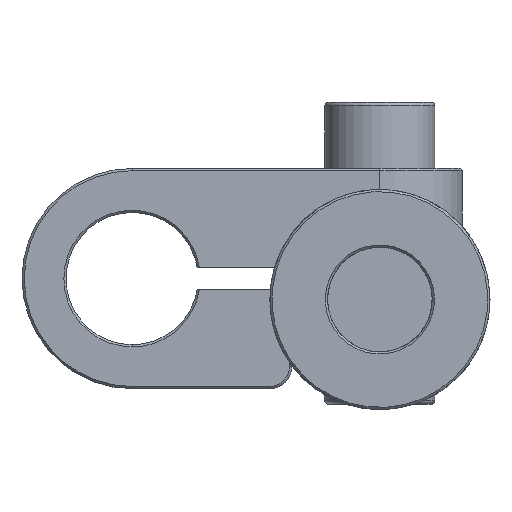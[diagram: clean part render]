
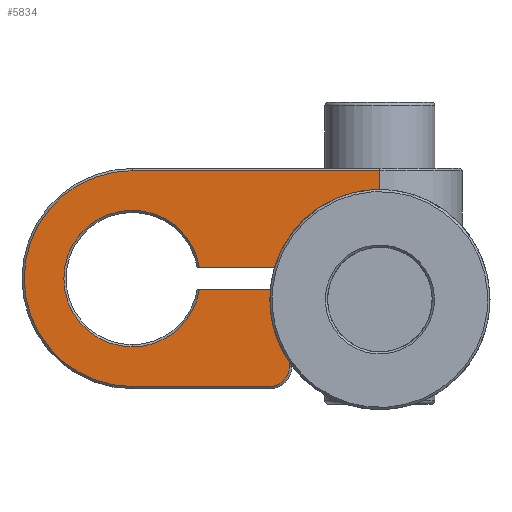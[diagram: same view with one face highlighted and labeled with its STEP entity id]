
A CAD part, front view. The second image highlights one B-rep face of the part: STEP entity #5834.
In plain terms, the highlighted planar face has unit normal (0, -1, 0).
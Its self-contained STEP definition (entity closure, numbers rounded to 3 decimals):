
#104 = CARTESIAN_POINT ( 'NONE',  ( -15., 4., 8.2 ) ) ;
#202 = CARTESIAN_POINT ( 'NONE',  ( -5., 4., -2.6 ) ) ;
#369 = LINE ( 'NONE', #2918, #20130 ) ;
#557 = LINE ( 'NONE', #8971, #8386 ) ;
#633 = VECTOR ( 'NONE', #19751, 1000. ) ;
#741 = CARTESIAN_POINT ( 'NONE',  ( -15., 4., -1.6 ) ) ;
#843 = VERTEX_POINT ( 'NONE', #11059 ) ;
#1045 = EDGE_CURVE ( 'NONE', #8752, #8353, #14349, .T. ) ;
#1168 = ORIENTED_EDGE ( 'NONE', *, *, #1660, .T. ) ;
#1223 = DIRECTION ( 'NONE',  ( 0., 0., 1. ) ) ;
#1227 = VERTEX_POINT ( 'NONE', #2761 ) ;
#1251 = EDGE_CURVE ( 'NONE', #1462, #843, #2883, .T. ) ;
#1462 = VERTEX_POINT ( 'NONE', #104 ) ;
#1660 = EDGE_CURVE ( 'NONE', #11976, #7726, #17225, .T. ) ;
#1688 = CARTESIAN_POINT ( 'NONE',  ( -2.5, 4., -9.6 ) ) ;
#1942 = EDGE_CURVE ( 'NONE', #10105, #1462, #369, .T. ) ;
#1982 = AXIS2_PLACEMENT_3D ( 'NONE', #15299, #5965, #16873 ) ;
#2008 = ORIENTED_EDGE ( 'NONE', *, *, #6267, .T. ) ;
#2331 = DIRECTION ( 'NONE',  ( 0., 0., 1. ) ) ;
#2545 = CARTESIAN_POINT ( 'NONE',  ( -2.5, 4., -11.4 ) ) ;
#2590 = CARTESIAN_POINT ( 'NONE',  ( -15., 4., -1.6 ) ) ;
#2601 = CARTESIAN_POINT ( 'NONE',  ( 7.5, 4., -1.6 ) ) ;
#2671 = AXIS2_PLACEMENT_3D ( 'NONE', #1688, #12614, #3281 ) ;
#2761 = CARTESIAN_POINT ( 'NONE',  ( -0.7, 4., -9.6 ) ) ;
#2784 = VERTEX_POINT ( 'NONE', #8647 ) ;
#2883 = CIRCLE ( 'NONE', #11496, 9.8 ) ;
#2918 = CARTESIAN_POINT ( 'NONE',  ( -5., 4., 8.2 ) ) ;
#3017 = CARTESIAN_POINT ( 'NONE',  ( -0.7, 4., -2.6 ) ) ;
#3055 = CARTESIAN_POINT ( 'NONE',  ( -0.7, 4., -1.6 ) ) ;
#3281 = DIRECTION ( 'NONE',  ( 0., 0., 1. ) ) ;
#3682 = ORIENTED_EDGE ( 'NONE', *, *, #1251, .T. ) ;
#3987 = CARTESIAN_POINT ( 'NONE',  ( -8.881, 4., -2.6 ) ) ;
#4164 = DIRECTION ( 'NONE',  ( 0., 0., 1. ) ) ;
#4181 = LINE ( 'NONE', #3055, #15616 ) ;
#4433 = DIRECTION ( 'NONE',  ( 0., 1., 0. ) ) ;
#4624 = DIRECTION ( 'NONE',  ( 0., 0., 1. ) ) ;
#4684 = EDGE_CURVE ( 'NONE', #843, #10606, #557, .T. ) ;
#5603 = VECTOR ( 'NONE', #11712, 1000. ) ;
#5834 = ADVANCED_FACE ( 'NONE', ( #7842 ), #16556, .F. ) ;
#5965 = DIRECTION ( 'NONE',  ( 0., 1., 0. ) ) ;
#6002 = EDGE_CURVE ( 'NONE', #10606, #1227, #12456, .T. ) ;
#6219 = DIRECTION ( 'NONE',  ( -1., 0., 0. ) ) ;
#6267 = EDGE_CURVE ( 'NONE', #1227, #8353, #4181, .T. ) ;
#6314 = LINE ( 'NONE', #17103, #18255 ) ;
#6872 = CARTESIAN_POINT ( 'NONE',  ( -8.881, 4., -0.6 ) ) ;
#7509 = CARTESIAN_POINT ( 'NONE',  ( 7.5, 4., 8.2 ) ) ;
#7563 = EDGE_CURVE ( 'NONE', #8692, #16523, #18360, .T. ) ;
#7574 = ORIENTED_EDGE ( 'NONE', *, *, #1045, .F. ) ;
#7726 = VERTEX_POINT ( 'NONE', #16959 ) ;
#7782 = ORIENTED_EDGE ( 'NONE', *, *, #1942, .T. ) ;
#7842 = FACE_OUTER_BOUND ( 'NONE', #15796, .T. ) ;
#8337 = CARTESIAN_POINT ( 'NONE',  ( 0.5, 4., -0.6 ) ) ;
#8353 = VERTEX_POINT ( 'NONE', #3017 ) ;
#8386 = VECTOR ( 'NONE', #19869, 1000. ) ;
#8636 = ORIENTED_EDGE ( 'NONE', *, *, #19975, .T. ) ;
#8647 = CARTESIAN_POINT ( 'NONE',  ( -15., 4., -7.8 ) ) ;
#8692 = VERTEX_POINT ( 'NONE', #17865 ) ;
#8752 = VERTEX_POINT ( 'NONE', #3987 ) ;
#8842 = CARTESIAN_POINT ( 'NONE',  ( 0.5, 4., 0.6 ) ) ;
#8859 = CARTESIAN_POINT ( 'NONE',  ( -5., 4., 0.6 ) ) ;
#8971 = CARTESIAN_POINT ( 'NONE',  ( -5., 4., -11.4 ) ) ;
#9250 = VERTEX_POINT ( 'NONE', #12083 ) ;
#9884 = DIRECTION ( 'NONE',  ( 0., 0., 1. ) ) ;
#10105 = VERTEX_POINT ( 'NONE', #7509 ) ;
#10541 = AXIS2_PLACEMENT_3D ( 'NONE', #13751, #4433, #15332 ) ;
#10578 = DIRECTION ( 'NONE',  ( 0., -1., 0. ) ) ;
#10606 = VERTEX_POINT ( 'NONE', #2545 ) ;
#11059 = CARTESIAN_POINT ( 'NONE',  ( -15., 4., -11.4 ) ) ;
#11496 = AXIS2_PLACEMENT_3D ( 'NONE', #19911, #10578, #1223 ) ;
#11662 = DIRECTION ( 'NONE',  ( 0., 1., 0. ) ) ;
#11712 = DIRECTION ( 'NONE',  ( 1., 0., 0. ) ) ;
#11828 = LINE ( 'NONE', #2601, #15985 ) ;
#11928 = DIRECTION ( 'NONE',  ( 0., 0., -1. ) ) ;
#11976 = VERTEX_POINT ( 'NONE', #8842 ) ;
#12009 = ORIENTED_EDGE ( 'NONE', *, *, #16075, .T. ) ;
#12083 = CARTESIAN_POINT ( 'NONE',  ( -0.7, 4., -0.6 ) ) ;
#12456 = CIRCLE ( 'NONE', #2671, 1.8 ) ;
#12614 = DIRECTION ( 'NONE',  ( 0., -1., 0. ) ) ;
#13485 = DIRECTION ( 'NONE',  ( 0., 1., 0. ) ) ;
#13694 = EDGE_CURVE ( 'NONE', #9250, #16523, #6314, .T. ) ;
#13751 = CARTESIAN_POINT ( 'NONE',  ( -15., 4., -1.6 ) ) ;
#14108 = AXIS2_PLACEMENT_3D ( 'NONE', #741, #11662, #2331 ) ;
#14349 = LINE ( 'NONE', #202, #5603 ) ;
#14425 = ORIENTED_EDGE ( 'NONE', *, *, #6002, .T. ) ;
#14866 = AXIS2_PLACEMENT_3D ( 'NONE', #2590, #13485, #4164 ) ;
#15296 = CIRCLE ( 'NONE', #15464, 1.2 ) ;
#15299 = CARTESIAN_POINT ( 'NONE',  ( -5., 4., -1.6 ) ) ;
#15332 = DIRECTION ( 'NONE',  ( 0., 0., 1. ) ) ;
#15389 = DIRECTION ( 'NONE',  ( -1., 0., 0. ) ) ;
#15429 = CIRCLE ( 'NONE', #10541, 6.2 ) ;
#15464 = AXIS2_PLACEMENT_3D ( 'NONE', #8337, #19215, #9884 ) ;
#15616 = VECTOR ( 'NONE', #4624, 1000. ) ;
#15796 = EDGE_LOOP ( 'NONE', ( #19380, #18086, #1168, #17232, #7782, #3682, #19439, #14425, #2008, #7574, #8636, #12009, #18919 ) ) ;
#15985 = VECTOR ( 'NONE', #11928, 1000. ) ;
#16075 = EDGE_CURVE ( 'NONE', #2784, #8692, #17691, .T. ) ;
#16523 = VERTEX_POINT ( 'NONE', #6872 ) ;
#16556 = PLANE ( 'NONE',  #1982 ) ;
#16873 = DIRECTION ( 'NONE',  ( 0., 0., 1. ) ) ;
#16959 = CARTESIAN_POINT ( 'NONE',  ( 7.5, 4., 0.6 ) ) ;
#17103 = CARTESIAN_POINT ( 'NONE',  ( -5., 4., -0.6 ) ) ;
#17225 = LINE ( 'NONE', #8859, #633 ) ;
#17232 = ORIENTED_EDGE ( 'NONE', *, *, #19267, .F. ) ;
#17691 = CIRCLE ( 'NONE', #14108, 6.2 ) ;
#17865 = CARTESIAN_POINT ( 'NONE',  ( -15., 4., 4.6 ) ) ;
#18086 = ORIENTED_EDGE ( 'NONE', *, *, #18507, .T. ) ;
#18255 = VECTOR ( 'NONE', #6219, 1000. ) ;
#18360 = CIRCLE ( 'NONE', #14866, 6.2 ) ;
#18507 = EDGE_CURVE ( 'NONE', #9250, #11976, #15296, .T. ) ;
#18919 = ORIENTED_EDGE ( 'NONE', *, *, #7563, .T. ) ;
#19215 = DIRECTION ( 'NONE',  ( 0., 1., 0. ) ) ;
#19267 = EDGE_CURVE ( 'NONE', #10105, #7726, #11828, .T. ) ;
#19380 = ORIENTED_EDGE ( 'NONE', *, *, #13694, .F. ) ;
#19439 = ORIENTED_EDGE ( 'NONE', *, *, #4684, .T. ) ;
#19751 = DIRECTION ( 'NONE',  ( 1., 0., 0. ) ) ;
#19869 = DIRECTION ( 'NONE',  ( 1., 0., 0. ) ) ;
#19911 = CARTESIAN_POINT ( 'NONE',  ( -15., 4., -1.6 ) ) ;
#19975 = EDGE_CURVE ( 'NONE', #8752, #2784, #15429, .T. ) ;
#20130 = VECTOR ( 'NONE', #15389, 1000. ) ;
